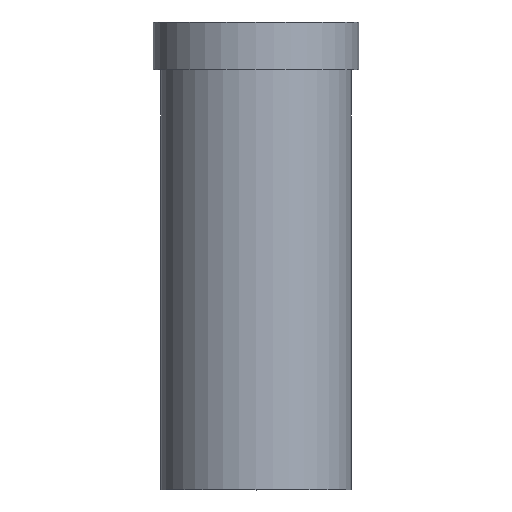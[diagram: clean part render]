
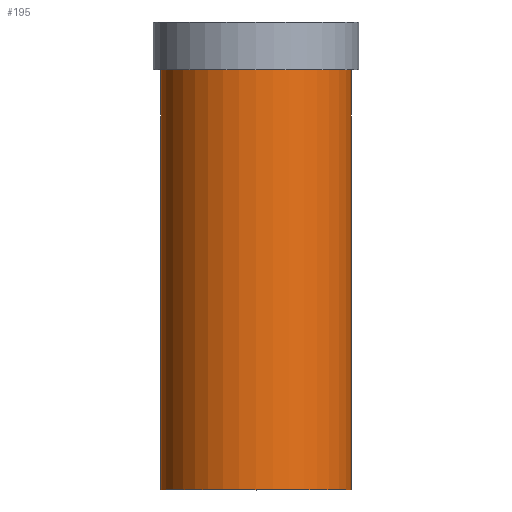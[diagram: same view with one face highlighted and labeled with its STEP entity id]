
A CAD part, top view. The second image highlights one B-rep face of the part: STEP entity #195.
In plain terms, the highlighted cylindrical face has radius 40 mm (diameter 80 mm), a full revolution.
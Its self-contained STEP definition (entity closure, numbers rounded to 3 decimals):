
#32=ORIENTED_EDGE('',*,*,#50,.T.);
#33=ORIENTED_EDGE('',*,*,#49,.F.);
#49=EDGE_CURVE('',#59,#59,#69,.T.);
#50=EDGE_CURVE('',#60,#60,#70,.T.);
#59=VERTEX_POINT('',#280);
#60=VERTEX_POINT('',#283);
#69=CIRCLE('',#213,40.);
#70=CIRCLE('',#215,40.);
#82=EDGE_LOOP('',(#32));
#83=EDGE_LOOP('',(#33));
#102=FACE_BOUND('',#82,.T.);
#103=FACE_BOUND('',#83,.T.);
#117=CYLINDRICAL_SURFACE('',#214,40.);
#195=ADVANCED_FACE('',(#102,#103),#117,.T.);
#213=AXIS2_PLACEMENT_3D('',#279,#241,#242);
#214=AXIS2_PLACEMENT_3D('',#281,#243,#244);
#215=AXIS2_PLACEMENT_3D('',#282,#245,#246);
#241=DIRECTION('',(0.,-1.,0.));
#242=DIRECTION('',(0.,0.,-1.));
#243=DIRECTION('',(0.,-1.,0.));
#244=DIRECTION('',(0.,0.,-1.));
#245=DIRECTION('',(0.,-1.,0.));
#246=DIRECTION('',(0.,0.,-1.));
#279=CARTESIAN_POINT('',(0.,0.,0.));
#280=CARTESIAN_POINT('',(0.,0.,-40.));
#281=CARTESIAN_POINT('',(0.,0.,0.));
#282=CARTESIAN_POINT('',(0.,176.,0.));
#283=CARTESIAN_POINT('',(0.,176.,-40.));
